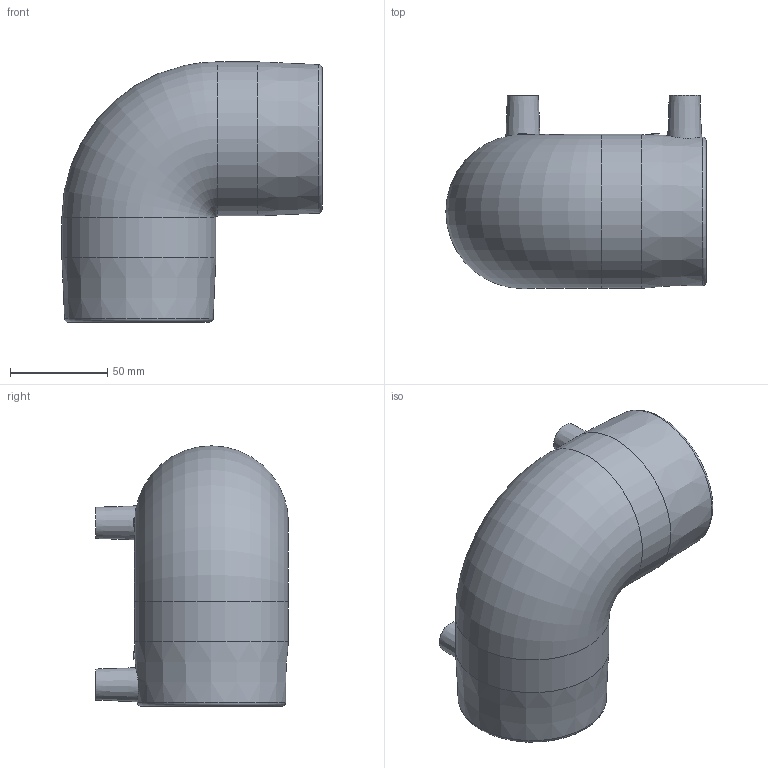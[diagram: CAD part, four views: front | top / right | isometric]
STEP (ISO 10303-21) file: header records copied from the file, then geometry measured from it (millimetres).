
FILE_DESCRIPTION(/* description */ ('Unknown'),/* implementation_level */ '2;1');
FILE_NAME(/* name */ 'GE9P063C',/* time_stamp */ '2021-02-11T15:52:28+01:00',/* author */ ('Unknown'),/* organization */ ('Unknown'),/* preprocessor_version */ 'ST-DEVELOPER v16.7',/* originating_system */ 'Solid Edge',/* authorisation */ 'Unknown');
FILE_SCHEMA (('AUTOMOTIVE_DESIGN {1 0 10303 214 3 1 1}'));
Length unit declared in the file: millimetre
Products named in the file (1): GE9P063C
Bounding box: 133.5 x 99 x 133.5 mm (x, y, z)
Volume: 323016.9 mm3; surface area: 82374.3 mm2
Topology: 1 solids, 1 shells, 32 faces, 60 edges, 40 vertices
Faces by surface type: plane 12, cylinder 12, cone 4, torus 4
Full cylindrical faces by diameter (mm): 4 x4, 12 x2, 63 x2, 79 x2
Entity records: 804 total; most frequent: CARTESIAN_POINT 222, DIRECTION 120, ORIENTED_EDGE 74, EDGE_LOOP 61, FACE_BOUND 61, AXIS2_PLACEMENT_3D 60, EDGE_CURVE 37, VERTEX_POINT 34
